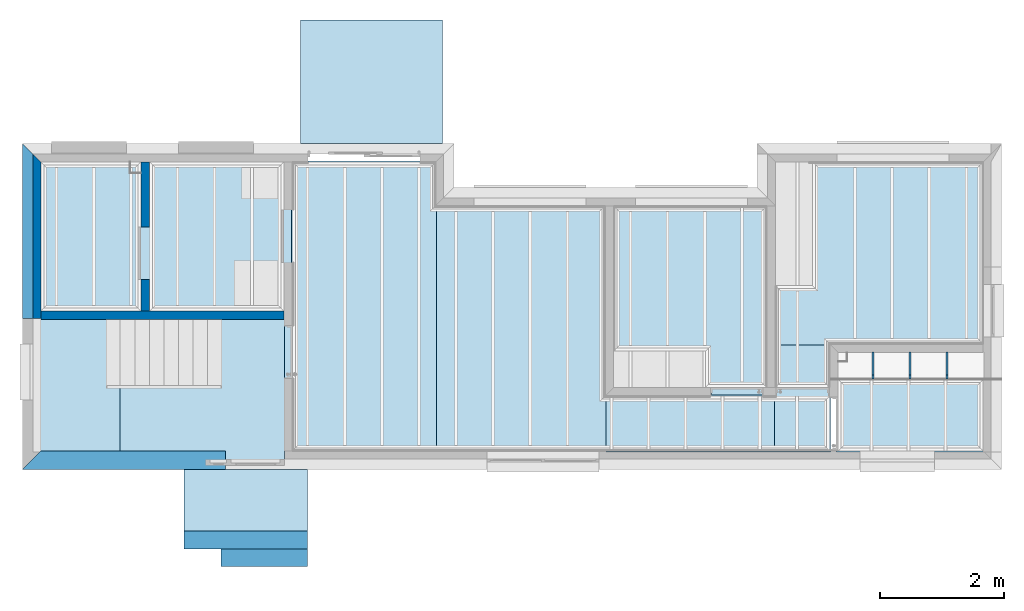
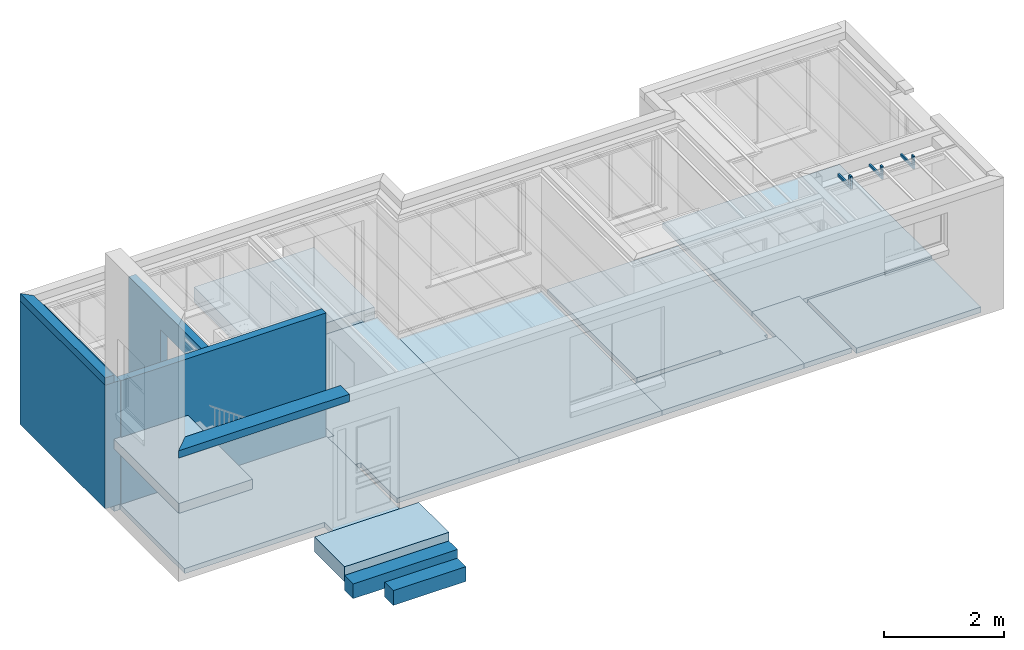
# One storey, part 1 of 15: 14 slabs, 8 walls.
"""IFC2X3 building model written with IfcOpenShell, lengths in millimetres."""

from ifc_helpers import new_model, entity, si_unit, converted_unit, money_unit, direction, frame, origin_with_axes, place, context, subcontext, project, spatial, polyline, outline, extrude, faceted_brep, source, transform, mapped, material, material_list, layer, layer_set, layer_usage, type_object, element, save


model = new_model("IFC2X3")

# Units and contexts
model_context = context("Model", 3, precision=1e-05, world=origin_with_axes(), true_north=direction((0.0, 1.0)))
body_context = subcontext(model_context, "Body", "Model", "MODEL_VIEW")
ifc_project = project(units=[si_unit("LENGTHUNIT", "METRE", prefix="MILLI"), si_unit("AREAUNIT", "SQUARE_METRE"), si_unit("VOLUMEUNIT", "CUBIC_METRE"), converted_unit("PLANEANGLEUNIT", "DEGREE", entity("IfcPlaneAngleMeasure", 0.0174532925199), si_unit("PLANEANGLEUNIT", "RADIAN"), dimensions=[0, 0, 0, 0, 0, 0, 0]), si_unit("SOLIDANGLEUNIT", "STERADIAN"), money_unit("AUD"), si_unit("TIMEUNIT", "SECOND"), si_unit("MASSUNIT", "GRAM"), si_unit("THERMODYNAMICTEMPERATUREUNIT", "DEGREE_CELSIUS"), si_unit("LUMINOUSINTENSITYUNIT", "LUMEN")], contexts=[model_context])

# Site, building, storey
site_placement = place(None, origin_with_axes())
site = spatial("IfcSite", under=ifc_project, at=site_placement, Name="Lot 1. East Hills", CompositionType="ELEMENT")
building_placement = place(site_placement, origin_with_axes())
building = spatial("IfcBuilding", under=site, at=building_placement, Name="Proposed Units 7 & 8", CompositionType="ELEMENT")
storey_placement = place(building_placement, frame((0.0, 0.0, 3202.0), z_axis=(0.0, 0.0, 1.0), x_axis=(1.0, 0.0, 0.0)))
storey = spatial("IfcBuildingStorey", under=building, at=storey_placement, Name="Ground", CompositionType="ELEMENT", Elevation=3202.0)

# Slabs
ifc_material_1 = material(Name="Concrete Reinforced")
ifc_layer_1 = layer(ifc_material_1, 100.0, ventilated="UNKNOWN")
ifc_layer_set_1 = layer_set([ifc_layer_1], Name="Concrete Reinforced 100")
ifc_layer_usage_1 = layer_usage(ifc_layer_set_1, "AXIS3", "NEGATIVE", 100.0)
slab_type_1 = type_object("IfcSlabType", Name="Concrete Reinforced 100", PredefinedType="FLOOR")
slab_1_placement = place(storey_placement, frame((4350.00001634, 2369.47093525, 0.0), z_axis=(0.0, 0.0, 1.0), x_axis=(1.0, 0.0, 0.0)))
element("IfcSlab", 1, at=slab_1_placement, inside=storey, type_object=slab_type_1, material=ifc_layer_usage_1, Name="Slab-G02 Concrete Reinforced Slab", PredefinedType="FLOOR", context=body_context, shape_type="SweptSolid", body=[
    extrude(outline(polyline([(0.0, 0.0), (-110.000017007, 0.0), (-110.000017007, -899.999863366), (0.0, -899.999863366), (0.0, -2091.47093592), (2344.9999642, -2091.47093592), (2344.9999642, 2613.52904076), (0.0, 2613.52904076), (0.0, 0.0)])), frame((0.0, 0.0, -100.0), z_axis=(0.0, 0.0, 1.0), x_axis=(1.0, 0.0, 0.0)), (0.0, 0.0, 1.0), 100.0),
])
ifc_layer_usage_2 = layer_usage(ifc_layer_set_1, "AXIS3", "NEGATIVE", 100.0)
slab_2_placement = place(storey_placement, frame((6694.99998054, 277.999999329, 0.0), z_axis=(0.0, 0.0, 1.0), x_axis=(1.0, 0.0, 0.0)))
element("IfcSlab", 2, at=slab_2_placement, inside=storey, type_object=slab_type_1, material=ifc_layer_usage_2, Name="Slab-G02 Concrete Reinforced Slab", PredefinedType="FLOOR", context=body_context, shape_type="SweptSolid", body=[
    extrude(outline(polyline([(0.0, 0.0), (2740.00005591, 0.0), (2740.00005591, 3995.00005077), (0.0, 3995.00005077), (0.0, 0.0)])), frame((0.0, 0.0, -100.0), z_axis=(0.0, 0.0, 1.0), x_axis=(1.0, 0.0, 0.0)), (0.0, 0.0, 1.0), 100.0),
])
ifc_layer_usage_3 = layer_usage(ifc_layer_set_1, "AXIS3", "NEGATIVE", 100.0)
slab_3_placement = place(storey_placement, frame((12160.0000441, 2007.99999873, 0.0), z_axis=(0.0, 0.0, 1.0), x_axis=(1.0, 0.0, 0.0)))
element("IfcSlab", 3, at=slab_3_placement, inside=storey, type_object=slab_type_1, material=ifc_layer_usage_3, Name="Slab-G02 Concrete Reinforced Slab", PredefinedType="FLOOR", context=body_context, shape_type="SweptSolid", body=[
    extrude(outline(polyline([(0.0, 0.0), (0.0, -1729.9999994), (904.999957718, -1729.9999994), (904.99926405, 0.0), (0.0, 0.0)])), frame((0.0, 0.0, -100.0), z_axis=(0.0, 0.0, 1.0), x_axis=(1.0, 0.0, 0.0)), (0.0, 0.0, 1.0), 100.0),
])
ifc_layer_usage_4 = layer_usage(ifc_layer_set_1, "AXIS3", "NEGATIVE", 100.0)
slab_4_placement = place(storey_placement, frame((12160.0000441, 2007.99999873, 0.0), z_axis=(0.0, 0.0, 1.0), x_axis=(1.0, 0.0, 0.0)))
element("IfcSlab", 4, at=slab_4_placement, inside=storey, type_object=slab_type_1, material=ifc_layer_usage_4, Name="Slab-G02 Concrete Reinforced Slab", PredefinedType="FLOOR", context=body_context, shape_type="SweptSolid", body=[
    extrude(outline(polyline([(0.0, 0.0), (904.99926405, 0.0), (904.999265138, -110.000009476), (3389.99993692, -109.999984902), (3389.99993692, 2974.99997728), (0.0, 2974.99997728), (0.0, 0.0)])), frame((0.0, 0.0, -100.0), z_axis=(0.0, 0.0, 1.0), x_axis=(1.0, 0.0, 0.0)), (0.0, 0.0, 1.0), 100.0),
])
ifc_layer_usage_5 = layer_usage(ifc_layer_set_1, "AXIS3", "NEGATIVE", 100.0)
slab_5_placement = place(storey_placement, frame((9545.00005346, 4272.99988157, 0.0), z_axis=(0.0, 0.0, 1.0), x_axis=(1.0, 0.0, 0.0)))
element("IfcSlab", 5, at=slab_5_placement, inside=storey, type_object=slab_type_1, material=ifc_layer_usage_5, Name="Slab-G02 Concrete Reinforced Slab", PredefinedType="FLOOR", context=body_context, shape_type="SweptSolid", body=[
    extrude(outline(polyline([(0.0, 0.0), (-0.000168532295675, -2964.99976896), (1594.99990953, -2964.99993749), (1594.99993134, -3074.99988112), (2444.99997083, -3074.99971259), (2444.99994902, -2964.99976896), (2504.99980509, -2964.99976896), (2504.99980509, 0.0), (0.0, 0.0)])), frame((0.0, 0.0, -100.0), z_axis=(0.0, 0.0, 1.0), x_axis=(1.0, 0.0, 0.0)), (0.0, 0.0, 1.0), 100.0),
])
ifc_layer_usage_6 = layer_usage(ifc_layer_set_1, "AXIS3", "NEGATIVE", 100.0)
slab_6_placement = place(storey_placement, frame((9435.00003645, 277.999999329, 0.0), z_axis=(0.0, 0.0, 1.0), x_axis=(1.0, 0.0, 0.0)))
element("IfcSlab", 6, at=slab_6_placement, inside=storey, type_object=slab_type_1, material=ifc_layer_usage_6, Name="Slab-G02 Concrete Reinforced Slab", PredefinedType="FLOOR", context=body_context, shape_type="SweptSolid", body=[
    extrude(outline(polyline([(0.0, 0.0), (2725.00000763, 0.0), (2725.00000763, 919.999927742), (0.0, 920.000096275), (0.0, 0.0)])), frame((0.0, 0.0, -100.0), z_axis=(0.0, 0.0, 1.0), x_axis=(1.0, 0.0, 0.0)), (0.0, 0.0, 1.0), 100.0),
])
ifc_layer_usage_7 = layer_usage(ifc_layer_set_1, "AXIS3", "NEGATIVE", 100.0)
slab_7_placement = place(storey_placement, frame((279.999999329, 2433.00000127, 0.0), z_axis=(0.0, 0.0, 1.0), x_axis=(1.0, 0.0, 0.0)))
element("IfcSlab", 7, at=slab_7_placement, inside=storey, type_object=slab_type_1, material=ifc_layer_usage_7, Name="Slab-G04 Concrete Reinforced Slab", PredefinedType="FLOOR", context=body_context, shape_type="SweptSolid", body=[
    extrude(outline(polyline([(0.0, 0.0), (0.0, -2155.00000194), (2679.58578832, -2155.00000194), (2679.58578832, -2435.00000127), (3959.99990974, -2435.00000127), (3959.99990974, 0.0), (0.0, 0.0)])), frame((0.0, 0.0, -100.0), z_axis=(0.0, 0.0, 1.0), x_axis=(1.0, 0.0, 0.0)), (0.0, 0.0, 1.0), 100.0),
])
ifc_layer_2 = layer(ifc_material_1, 110.0, ventilated="UNKNOWN")
ifc_layer_set_2 = layer_set([ifc_layer_2], Name="Concrete Reinforced 110")
ifc_layer_usage_8 = layer_usage(ifc_layer_set_2, "AXIS3", "NEGATIVE", 110.0)
slab_type_2 = type_object("IfcSlabType", Name="Concrete Reinforced 110", PredefinedType="FLOOR")
slab_8_placement = place(storey_placement, frame((4349.99999873, 5093.0000006, 0.0), z_axis=(0.0, 0.0, 1.0), x_axis=(1.0, 0.0, 0.0)))
element("IfcSlab", 8, at=slab_8_placement, inside=storey, type_object=slab_type_2, material=ifc_layer_usage_8, Name="Slab-G01 Concrete Reinforced Slab", PredefinedType="FLOOR", context=body_context, shape_type="SweptSolid", body=[
    extrude(outline(polyline([(0.0, 0.0), (-4179.99999933, 0.0), (-4179.99999933, -2659.99999933), (-109.999999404, -2659.99999933), (-109.999999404, -2723.52904291), (0.0, -2723.52904291), (0.0, 0.0)])), frame((0.0, 0.0, -110.0), z_axis=(0.0, 0.0, 1.0), x_axis=(1.0, 0.0, 0.0)), (0.0, 0.0, 1.0), 110.0),
])
ifc_layer_usage_9 = layer_usage(ifc_layer_set_2, "AXIS3", "NEGATIVE", 110.0)
slab_9_placement = place(storey_placement, frame((13158.8257533, 277.999998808, -40.0), z_axis=(0.0, 0.0, 1.0), x_axis=(1.0, 0.0, 0.0)))
element("IfcSlab", 9, at=slab_9_placement, inside=storey, type_object=slab_type_2, material=ifc_layer_usage_9, Name="Slab-G03 Concrete Reinforced Slab", PredefinedType="FLOOR", context=body_context, shape_type="SweptSolid", body=[
    extrude(outline(polyline([(0.0, 0.0), (2391.17422769, 0.0), (2391.17422769, 1620.00000052), (5.34665858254e-05, 1620.00000052), (0.0, 0.0)])), frame((0.0, 0.0, -110.0), z_axis=(0.0, 0.0, 1.0), x_axis=(1.0, 0.0, 0.0)), (0.0, 0.0, 1.0), 110.0),
])
ifc_layer_3 = layer(ifc_material_1, 300.0, ventilated="UNKNOWN")
ifc_layer_set_3 = layer_set([ifc_layer_3], Name="Concrete Reinforced 300")
ifc_layer_usage_10 = layer_usage(ifc_layer_set_3, "AXIS3", "NEGATIVE", 300.0)
slab_type_3 = type_object("IfcSlabType", Name="Concrete Reinforced 300", PredefinedType="FLOOR")
slab_10_placement = place(storey_placement, frame((6794.955478, 7263.00000087, 0.0), z_axis=(0.0, 0.0, 1.0), x_axis=(1.0, 0.0, 0.0)))
element("IfcSlab", 10, at=slab_10_placement, inside=storey, type_object=slab_type_3, material=ifc_layer_usage_10, Name="Slab-G06 Concrete Reinforced Slab", PredefinedType="FLOOR", context=body_context, shape_type="SweptSolid", body=[
    extrude(outline(polyline([(0.0, 0.0), (-2299.955478, 5.59556845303e-07), (-2299.955478, -2000.00000087), (0.0, -2000.00000087), (0.0, 0.0)])), frame((0.0, 0.0, -300.0), z_axis=(0.0, 0.0, 1.0), x_axis=(1.0, 0.0, 0.0)), (0.0, 0.0, 1.0), 300.0),
])
ifc_layer_usage_11 = layer_usage(ifc_layer_set_3, "AXIS3", "NEGATIVE", 300.0)
slab_11_placement = place(storey_placement, frame((4607.08309687, -2.00000050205, 0.0), z_axis=(0.0, 0.0, 1.0), x_axis=(1.0, 0.0, 0.0)))
element("IfcSlab", 11, at=slab_11_placement, inside=storey, type_object=slab_type_3, material=ifc_layer_usage_11, Name="Slab-G05 Concrete Reinforced Slab", PredefinedType="FLOOR", context=body_context, shape_type="SweptSolid", body=[
    extrude(outline(polyline([(0.0, 0.0), (-1999.97764937, 4.8657460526e-07), (-1999.97764937, -1000.3543113), (0.0, -1000.3543113), (0.0, 0.0)])), frame((0.0, 0.0, -300.0), z_axis=(0.0, 0.0, 1.0), x_axis=(1.0, 0.0, 0.0)), (0.0, 0.0, 1.0), 300.0),
])
ifc_layer_usage_12 = layer_usage(ifc_layer_set_3, "AXIS3", "NEGATIVE", 300.0)
slab_12_placement = place(storey_placement, frame((2607.1054475, -1002.35431181, -175.0), z_axis=(0.0, 0.0, 1.0), x_axis=(1.0, 0.0, 0.0)))
element("IfcSlab", 12, at=slab_12_placement, inside=storey, type_object=slab_type_3, material=ifc_layer_usage_12, Name="Slab-G05 Concrete Reinforced Slab", PredefinedType="FLOOR", context=body_context, shape_type="SweptSolid", body=[
    extrude(outline(polyline([(0.0, 0.0), (0.0, -285.0), (1999.97764937, -285.0), (1999.97764937, 0.0), (0.0, 0.0)])), frame((0.0, 0.0, -300.0), z_axis=(0.0, 0.0, 1.0), x_axis=(1.0, 0.0, 0.0)), (0.0, 0.0, 1.0), 300.0),
])
ifc_layer_usage_13 = layer_usage(ifc_layer_set_3, "AXIS3", "NEGATIVE", 300.0)
slab_13_placement = place(storey_placement, frame((3212.1054475, -1287.35431181, -350.0), z_axis=(0.0, 0.0, 1.0), x_axis=(1.0, 0.0, 0.0)))
element("IfcSlab", 13, at=slab_13_placement, inside=storey, type_object=slab_type_3, material=ifc_layer_usage_13, Name="Slab-G06 Concrete Reinforced Slab", PredefinedType="FLOOR", context=body_context, shape_type="SweptSolid", body=[
    extrude(outline(polyline([(0.0, 0.0), (0.0, -285.0), (1394.97764937, -285.0), (1394.97764937, 0.0), (0.0, 0.0)])), frame((0.0, 0.0, -300.0), z_axis=(0.0, 0.0, 1.0), x_axis=(1.0, 0.0, 0.0)), (0.0, 0.0, 1.0), 300.0),
])
ifc_layer_4 = layer(ifc_material_1, 200.0, ventilated="UNKNOWN")
ifc_layer_set_4 = layer_set([ifc_layer_4], Name="Concrete Reinforced 200")
ifc_layer_usage_14 = layer_usage(ifc_layer_set_4, "AXIS3", "NEGATIVE", 200.0)
slab_type_4 = type_object("IfcSlabType", Name="Concrete Reinforced 200", PredefinedType="FLOOR")
slab_14_placement = place(storey_placement, frame((169.999886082, 2433.00000127, 1358.5), z_axis=(0.0, 0.0, 1.0), x_axis=(1.0, 0.0, 0.0)))
element("IfcSlab", 14, at=slab_14_placement, inside=storey, type_object=slab_type_4, material=ifc_layer_usage_14, Name="Slab-G08 Concrete Reinforced Slab", PredefinedType="FLOOR", context=body_context, shape_type="SweptSolid", body=[
    extrude(outline(polyline([(0.0, 0.0), (0.0, -2155.00000194), (1410.0, -2155.00000194), (1410.0, 0.0), (0.0, 0.0)])), frame((0.0, 0.0, -200.0), z_axis=(0.0, 0.0, 1.0), x_axis=(1.0, 0.0, 0.0)), (0.0, 0.0, 1.0), 200.0),
])

# Walls
ifc_material_2 = material(Name="50 %")
wall_type_1 = type_object("IfcWallType", Name="bULKHEAD FRAMING", PredefinedType="NOTDEFINED")
shared_shape = source(origin_with_axes(), body_context, "Body", "Brep", [
    faceted_brep([(35.0, 0.0, 0.0), (35.0, 437.0, 0.0), (35.0, 437.0, 55.0), (35.0, 0.0, 55.0), (0.0, 0.0, 0.0), (0.0, 437.0, 0.0), (0.0, 437.0, 55.0), (0.0, 0.0, 55.0)], [[[0, 1, 2, 3]], [[4, 5, 1, 0]], [[5, 6, 2, 1]], [[6, 7, 3, 2]], [[7, 4, 0, 3]], [[4, 7, 6, 5]]]),
    faceted_brep([(35.0, 0.0, 55.0), (35.0, 63.0, 55.0), (35.0, 63.0, 256.94135251), (35.0, 0.0, 256.94135251), (0.0, 0.0, 55.0), (0.0, 63.0, 55.0), (0.0, 63.0, 256.94135251), (0.0, 0.0, 256.94135251)], [[[0, 1, 2, 3]], [[4, 5, 1, 0]], [[5, 6, 2, 1]], [[6, 7, 3, 2]], [[7, 4, 0, 3]], [[4, 7, 6, 5]]]),
])
for number, where, z_axis, x_axis in (
    (15, (13732.4999743, 1460.99947929, 2263.05864749), (0.0, 0.0, 1.0), (1.0, 0.0, 0.0)),
    (16, (14332.4999743, 1460.99947929, 2250.05864749), (0.0, 0.0, 1.0), (1.0, 0.0, 0.0)),
    (17, (14932.4999743, 1460.99947929, 2250.05864749), (0.0, 0.0, 1.0), (1.0, 0.0, 0.0)),
):
    element("IfcWall", number, at=place(storey_placement, frame(where, z_axis=z_axis, x_axis=x_axis)), inside=storey, type_object=wall_type_1, material=ifc_material_2, Name="CEL-MOD-G22 - bULKHEAD FRAMING  - object -", context=body_context, shape_type="MappedRepresentation", body=[
        mapped(shared_shape, transform((0.0, 0.0, 0.0))),
    ])
ifc_material_3 = material(Name="Brickwork Faced")
ifc_material_4 = material(Name="Cavity")
ifc_material_5 = material(Name="Cement Render")
ifc_material_list_1 = material_list([ifc_material_3, ifc_material_4, ifc_material_3, ifc_material_5])
wall_type_2 = type_object("IfcWallType", Name="Cavity wall 280 295", PredefinedType="NOTDEFINED")
wall_1_placement = place(storey_placement, frame((0.0, -2.0, 2507.0), z_axis=(0.0, 0.0, 1.0), x_axis=(1.0, 0.0, 0.0)))
element("IfcWall", 18, at=wall_1_placement, inside=storey, type_object=wall_type_2, material=ifc_material_list_1, Name="EXT-WALL-GH09 Cavity wall 280 Wall", context=body_context, shape_type="Brep", body=[
    faceted_brep([(294.999998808, 294.999998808, 0.0), (294.999998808, 294.999998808, 150.0), (3279.99999933, 294.999998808, 150.0), (3279.99999933, 294.999998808, 0.0), (0.0, 0.0, 150.0), (0.0, 0.0, 0.0), (3279.99999933, 0.0, 150.0), (3279.99999933, 0.0, 0.0)], [[[0, 1, 2, 3]], [[4, 1, 0, 5]], [[1, 4, 6, 2]], [[3, 2, 6, 7]], [[5, 0, 3, 7]], [[4, 5, 7, 6]]]),
])
wall_2_placement = place(storey_placement, frame((0.0, 5263.0, 0.0), z_axis=(0.0, 0.0, 1.0), x_axis=(0.0, -1.0, 0.0)))
element("IfcWall", 19, at=wall_2_placement, inside=storey, type_object=wall_type_2, material=ifc_material_list_1, Name="EXT-WALL-G10 Cavity wall 280 Wall", context=body_context, shape_type="Brep", body=[
    faceted_brep([(294.999998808, 294.999998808, 0.0), (294.999998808, 294.999998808, 2507.0), (2829.99999873, 294.999998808, 2507.0), (2829.99999873, 294.999998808, 0.0), (0.0, 0.0, 2507.0), (0.0, 0.0, 0.0), (2829.99999873, 0.0, 2507.0), (2829.99999873, 0.0, 0.0)], [[[0, 1, 2, 3]], [[4, 1, 0, 5]], [[1, 4, 6, 2]], [[3, 2, 6, 7]], [[5, 0, 3, 7]], [[4, 5, 7, 6]]]),
])
ifc_material_list_2 = material_list([ifc_material_3, ifc_material_4])
wall_type_3 = type_object("IfcWallType", Name="Cavity wall @slab 170", PredefinedType="NOTDEFINED")
wall_3_placement = place(storey_placement, frame((0.0, 5263.0, 2507.0), z_axis=(0.0, 0.0, 1.0), x_axis=(0.0, -1.0, 0.0)))
element("IfcWall", 20, at=wall_3_placement, inside=storey, type_object=wall_type_3, material=ifc_material_list_2, Name="EXT-WALL-GH07 Cavity wall @slab Wall", context=body_context, shape_type="Brep", body=[
    faceted_brep([(169.999999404, 169.999999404, 0.0), (169.999999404, 169.999999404, 150.0), (2829.99999933, 169.999999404, 150.0), (2829.99999933, 169.999999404, 0.0), (0.0, 0.0, 150.0), (0.0, 0.0, 0.0), (2829.99999933, 0.0, 150.0), (2829.99999933, 0.0, 0.0)], [[[0, 1, 2, 3]], [[4, 1, 0, 5]], [[1, 4, 6, 2]], [[3, 2, 6, 7]], [[5, 0, 3, 7]], [[4, 5, 7, 6]]]),
])
ifc_material_list_3 = material_list([ifc_material_5, ifc_material_3, ifc_material_5])
wall_type_4 = type_object("IfcWallType", Name="Solid Brick Render Both Side 140 140", PredefinedType="NOTDEFINED")
wall_4_placement = place(storey_placement, frame((4225.02032632, 2558.06361356, 0.0), z_axis=(0.0, 0.0, 1.0), x_axis=(-0.999999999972, -7.51477654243e-06, 0.0)))
element("IfcWall", 21, at=wall_4_placement, inside=storey, type_object=wall_type_4, material=ifc_material_list_3, Name="INT-WALLG01 Solid Brick Render Both Side 140 Wall", context=body_context, shape_type="Brep", body=[
    faceted_brep([(3930.02032762, 0.0, 0.0), (3930.02032762, 0.0, 2507.0), (0.0, 0.0, 2507.0), (0.0, 0.0, 0.0), (3930.02137971, 140.002216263, 2507.0), (3930.02137971, 140.002216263, 0.0), (0.0, 139.999999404, 2507.0), (0.0, 139.999999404, 0.0)], [[[0, 1, 2, 3]], [[4, 1, 0, 5]], [[1, 4, 6, 2]], [[6, 7, 3, 2]], [[5, 0, 3, 7]], [[4, 5, 7, 6]]]),
])
wall_5_placement = place(storey_placement, frame((1915.0, 5263.0, 0.0), z_axis=(0.0, 0.0, 1.0), x_axis=(0.0, -1.0, 0.0)))
element("IfcWall", 22, at=wall_5_placement, inside=storey, type_object=wall_type_4, material=ifc_material_list_3, Name="INT-WALLG02 Solid Brick Render Both Side 140 Wall", context=body_context, shape_type="Brep", body=[
    faceted_brep([(2194.87177992, 139.999999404, 0.0), (2194.87177992, 139.999999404, 2067.0), (1344.87177992, 139.999999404, 2067.0), (1344.87177992, 139.999999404, 0.0), (294.999998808, 139.999999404, 0.0), (294.999998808, 139.999999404, 2507.0), (2704.95374573, 139.999999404, 2507.0), (2704.95374573, 139.999999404, 0.0), (2194.87177992, 0.0, 0.0), (2194.87177992, 0.0, 2067.0), (1344.87177992, 0.0, 2067.0), (1344.87177992, 0.0, 0.0), (294.999998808, 0.0, 0.0), (294.999998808, 0.0, 2507.0), (2704.95374573, 0.0, 2507.0), (2704.95374573, 0.0, 0.0)], [[[0, 1, 2, 3, 4, 5, 6, 7]], [[1, 0, 8, 9]], [[2, 1, 9, 10]], [[3, 2, 10, 11]], [[3, 11, 12, 4]], [[12, 13, 5, 4]], [[6, 5, 13, 14]], [[15, 7, 6, 14]], [[8, 0, 7, 15]], [[9, 8, 15, 14, 13, 12, 11, 10]]]),
])

save(model, "model.ifc")
